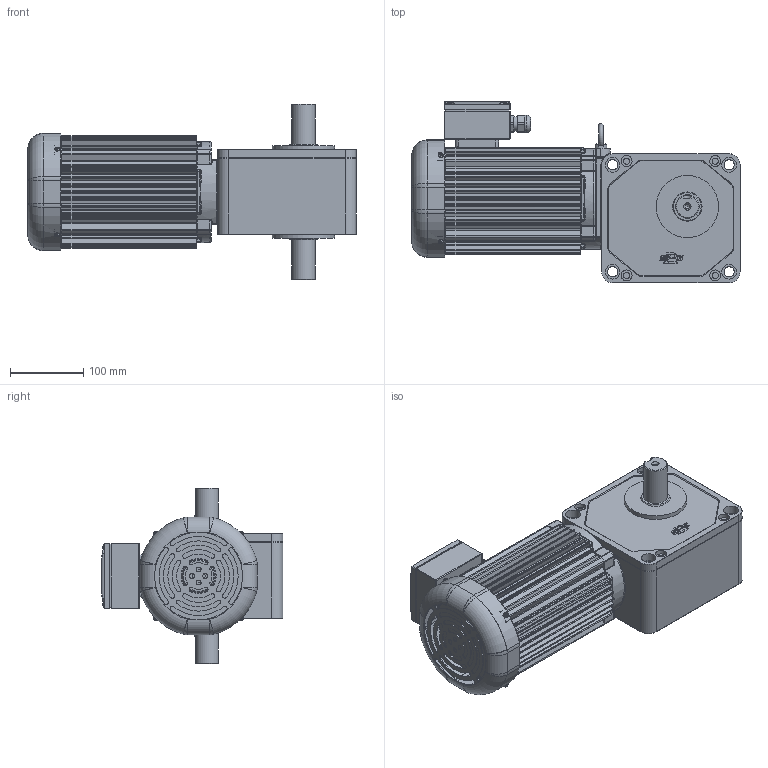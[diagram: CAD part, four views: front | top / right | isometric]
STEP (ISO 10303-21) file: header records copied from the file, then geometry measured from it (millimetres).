
FILE_DESCRIPTION(/* description */ (''),/* implementation_level */ '2;1');
FILE_NAME(/* name */ 'Z:\동력 3D 파일\PCS32B_0.75kW_3D.stp',/* time_stamp */ '2021-11-09T11:47:27+09:00',/* author */ ('jaebok'),/* organization */ (''),/* preprocessor_version */ 'ST-DEVELOPER v18.1',/* originating_system */ 'Autodesk Inventor 2022',/* authorisation */ '');
FILE_SCHEMA (('AUTOMOTIVE_DESIGN { 1 0 10303 214 3 1 1 }'));
Products named in the file (1): 부품61
Bounding box: 448 x 248 x 240 mm (x, y, z)
Volume: 2912947.2 mm3; surface area: 771962.9 mm2
Topology: 1 solids, 26 shells, 2137 faces, 5458 edges, 3396 vertices
Faces by surface type: plane 873, cylinder 772, bspline 207, torus 172, cone 65, sphere 48
Full cylindrical faces by diameter (mm): 3.25 x1, 3.5 x4, 3.6 x4, 4 x22, 5 x13, 6 x8, 6.647 x3, 7 x13, 8 x5, 8.5 x4, 10 x1, 12.5 x1, 14 x4, 15 x5, 18 x1, 20 x14, 20.6 x1, 21 x1, 23.6 x1, 25 x1, 30 x1, 32 x2, 40 x3, 44 x1, 54.5 x1, 72 x2, 85 x2, 125 x1, 128 x2, 129 x1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
Entity records: 73663 total; most frequent: CARTESIAN_POINT 20020, DIRECTION 11018, ORIENTED_EDGE 10798, EDGE_CURVE 5399, AXIS2_PLACEMENT_3D 4252, VERTEX_POINT 3396, LINE 2514, VECTOR 2514
